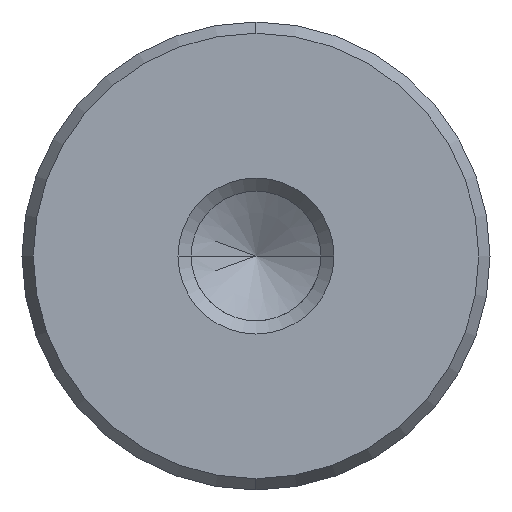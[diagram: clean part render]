
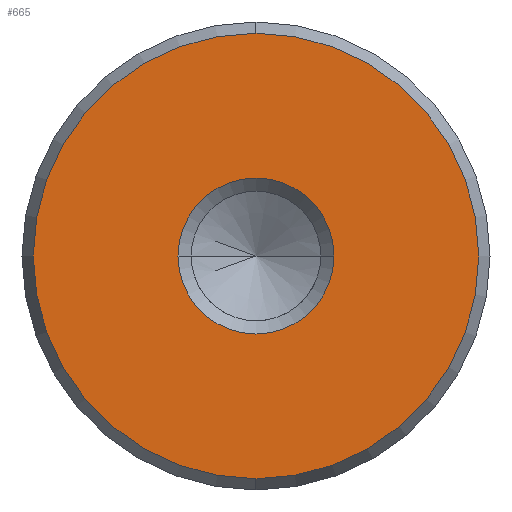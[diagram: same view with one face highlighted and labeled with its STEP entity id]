
A CAD part, left-side view. The second image highlights one B-rep face of the part: STEP entity #665.
In plain terms, the highlighted planar face has unit normal (-1, 0, 0).
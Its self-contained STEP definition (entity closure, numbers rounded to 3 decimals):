
#579=CARTESIAN_POINT('Vertex',(0.,0.,-11.423)) ;
#582=CARTESIAN_POINT('Axis2P3D Location',(0.,0.,0.)) ;
#586=CARTESIAN_POINT('Vertex',(0.,11.423,0.)) ;
#589=CARTESIAN_POINT('Axis2P3D Location',(0.,0.,0.)) ;
#593=CARTESIAN_POINT('Vertex',(0.,0.,11.423)) ;
#615=CARTESIAN_POINT('Axis2P3D Location',(0.,0.,0.)) ;
#619=CARTESIAN_POINT('Vertex',(0.,-11.423,0.)) ;
#622=CARTESIAN_POINT('Axis2P3D Location',(0.,0.,0.)) ;
#636=CARTESIAN_POINT('Axis2P3D Location',(0.,0.,0.)) ;
#647=CARTESIAN_POINT('Axis2P3D Location',(0.,0.,0.)) ;
#651=CARTESIAN_POINT('Vertex',(0.,4.,0.)) ;
#653=CARTESIAN_POINT('Vertex',(0.,-4.,0.)) ;
#656=CARTESIAN_POINT('Axis2P3D Location',(0.,0.,0.)) ;
#583=DIRECTION('Axis2P3D Direction',(1.,0.,-0.)) ;
#590=DIRECTION('Axis2P3D Direction',(1.,0.,-0.)) ;
#616=DIRECTION('Axis2P3D Direction',(1.,0.,-0.)) ;
#623=DIRECTION('Axis2P3D Direction',(1.,0.,-0.)) ;
#637=DIRECTION('Axis2P3D Direction',(1.,0.,-0.)) ;
#638=DIRECTION('Axis2P3D XDirection',(-0.,0.,-1.)) ;
#648=DIRECTION('Axis2P3D Direction',(1.,0.,-0.)) ;
#657=DIRECTION('Axis2P3D Direction',(1.,0.,-0.)) ;
#584=AXIS2_PLACEMENT_3D('Circle Axis2P3D',#582,#583,$) ;
#591=AXIS2_PLACEMENT_3D('Circle Axis2P3D',#589,#590,$) ;
#617=AXIS2_PLACEMENT_3D('Circle Axis2P3D',#615,#616,$) ;
#624=AXIS2_PLACEMENT_3D('Circle Axis2P3D',#622,#623,$) ;
#639=AXIS2_PLACEMENT_3D('Plane Axis2P3D',#636,#637,#638) ;
#649=AXIS2_PLACEMENT_3D('Circle Axis2P3D',#647,#648,$) ;
#658=AXIS2_PLACEMENT_3D('Circle Axis2P3D',#656,#657,$) ;
#642=ORIENTED_EDGE('',*,*,#588,.F.) ;
#643=ORIENTED_EDGE('',*,*,#626,.F.) ;
#644=ORIENTED_EDGE('',*,*,#621,.F.) ;
#645=ORIENTED_EDGE('',*,*,#595,.F.) ;
#662=ORIENTED_EDGE('',*,*,#655,.T.) ;
#663=ORIENTED_EDGE('',*,*,#660,.T.) ;
#664=FACE_BOUND('',#661,.T.) ;
#665=ADVANCED_FACE('720-24x355',(#646,#664),#640,.F.) ;
#585=CIRCLE('generated circle',#584,11.423) ;
#592=CIRCLE('generated circle',#591,11.423) ;
#618=CIRCLE('generated circle',#617,11.423) ;
#625=CIRCLE('generated circle',#624,11.423) ;
#650=CIRCLE('generated circle',#649,4.) ;
#659=CIRCLE('generated circle',#658,4.) ;
#588=EDGE_CURVE('',#580,#587,#585,.T.) ;
#595=EDGE_CURVE('',#587,#594,#592,.T.) ;
#621=EDGE_CURVE('',#594,#620,#618,.T.) ;
#626=EDGE_CURVE('',#620,#580,#625,.T.) ;
#655=EDGE_CURVE('',#652,#654,#650,.T.) ;
#660=EDGE_CURVE('',#654,#652,#659,.T.) ;
#641=EDGE_LOOP('',(#642,#643,#644,#645)) ;
#661=EDGE_LOOP('',(#662,#663)) ;
#646=FACE_OUTER_BOUND('',#641,.T.) ;
#640=PLANE('Plane',#639) ;
#580=VERTEX_POINT('',#579) ;
#587=VERTEX_POINT('',#586) ;
#594=VERTEX_POINT('',#593) ;
#620=VERTEX_POINT('',#619) ;
#652=VERTEX_POINT('',#651) ;
#654=VERTEX_POINT('',#653) ;
